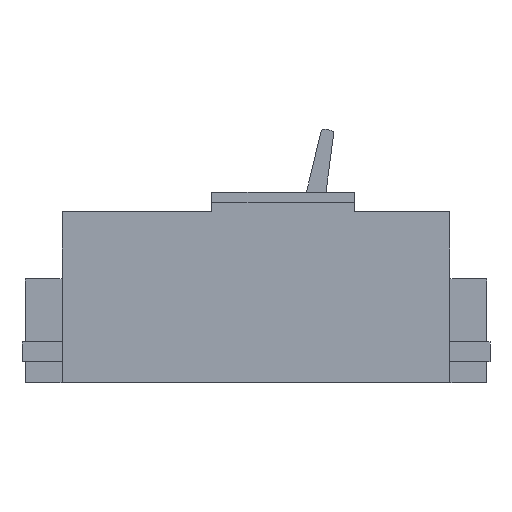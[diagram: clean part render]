
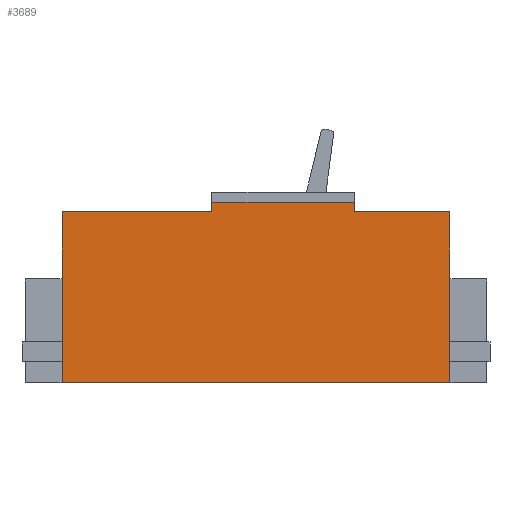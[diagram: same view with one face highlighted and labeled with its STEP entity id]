
A CAD part, left-side view. The second image highlights one B-rep face of the part: STEP entity #3689.
In plain terms, the highlighted planar face has unit normal (-1, 0, 0).
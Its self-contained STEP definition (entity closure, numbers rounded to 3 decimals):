
#55 = EDGE_CURVE ( 'NONE', #1379, #2884, #3174, .T. ) ;
#79 = AXIS2_PLACEMENT_3D ( 'NONE', #3136, #175, #1993 ) ;
#116 = DIRECTION ( 'NONE',  ( 0., 0., -1. ) ) ;
#163 = ORIENTED_EDGE ( 'NONE', *, *, #2236, .T. ) ;
#175 = DIRECTION ( 'NONE',  ( 1., 0., 0. ) ) ;
#181 = VECTOR ( 'NONE', #3947, 1000. ) ;
#277 = VERTEX_POINT ( 'NONE', #3913 ) ;
#313 = VECTOR ( 'NONE', #4468, 1000. ) ;
#332 = ORIENTED_EDGE ( 'NONE', *, *, #2260, .F. ) ;
#427 = LINE ( 'NONE', #3037, #313 ) ;
#447 = CARTESIAN_POINT ( 'NONE',  ( -105., 157.4, 154.6 ) ) ;
#590 = PLANE ( 'NONE',  #79 ) ;
#709 = VERTEX_POINT ( 'NONE', #4234 ) ;
#971 = DIRECTION ( 'NONE',  ( 0., -1., 0. ) ) ;
#1175 = EDGE_CURVE ( 'NONE', #277, #3954, #4551, .T. ) ;
#1237 = CARTESIAN_POINT ( 'NONE',  ( -105., -157.4, 154.6 ) ) ;
#1280 = CARTESIAN_POINT ( 'NONE',  ( -105., -80.1, 138.6 ) ) ;
#1342 = EDGE_CURVE ( 'NONE', #709, #2465, #427, .T. ) ;
#1379 = VERTEX_POINT ( 'NONE', #2691 ) ;
#1446 = CARTESIAN_POINT ( 'NONE',  ( -105., -157.4, 0. ) ) ;
#1535 = VECTOR ( 'NONE', #116, 1000. ) ;
#1588 = ORIENTED_EDGE ( 'NONE', *, *, #1175, .T. ) ;
#1639 = LINE ( 'NONE', #1237, #3660 ) ;
#1648 = LINE ( 'NONE', #447, #1535 ) ;
#1679 = ORIENTED_EDGE ( 'NONE', *, *, #4338, .F. ) ;
#1873 = FACE_OUTER_BOUND ( 'NONE', #4542, .T. ) ;
#1929 = VECTOR ( 'NONE', #2001, 1000. ) ;
#1931 = VERTEX_POINT ( 'NONE', #3065 ) ;
#1993 = DIRECTION ( 'NONE',  ( 0., 1., 0. ) ) ;
#2001 = DIRECTION ( 'NONE',  ( 0., -1., 0. ) ) ;
#2236 = EDGE_CURVE ( 'NONE', #3265, #277, #1648, .T. ) ;
#2238 = DIRECTION ( 'NONE',  ( 0., -1., 0. ) ) ;
#2260 = EDGE_CURVE ( 'NONE', #3265, #1379, #3885, .T. ) ;
#2276 = LINE ( 'NONE', #2380, #1929 ) ;
#2309 = CARTESIAN_POINT ( 'NONE',  ( -105., 35.9, 146.3 ) ) ;
#2363 = ORIENTED_EDGE ( 'NONE', *, *, #1342, .F. ) ;
#2380 = CARTESIAN_POINT ( 'NONE',  ( -105., 35.9, 146.3 ) ) ;
#2401 = DIRECTION ( 'NONE',  ( 0., 0., -1. ) ) ;
#2465 = VERTEX_POINT ( 'NONE', #4550 ) ;
#2691 = CARTESIAN_POINT ( 'NONE',  ( -105., 35.9, 138.6 ) ) ;
#2827 = ORIENTED_EDGE ( 'NONE', *, *, #4229, .F. ) ;
#2884 = VERTEX_POINT ( 'NONE', #2309 ) ;
#2901 = VECTOR ( 'NONE', #971, 1000. ) ;
#2954 = LINE ( 'NONE', #1280, #2901 ) ;
#2991 = EDGE_CURVE ( 'NONE', #1931, #3954, #1639, .T. ) ;
#3037 = CARTESIAN_POINT ( 'NONE',  ( -105., -80.1, 154.6 ) ) ;
#3065 = CARTESIAN_POINT ( 'NONE',  ( -105., -157.4, 138.6 ) ) ;
#3136 = CARTESIAN_POINT ( 'NONE',  ( -105., 157.4, 154.6 ) ) ;
#3174 = LINE ( 'NONE', #3833, #3739 ) ;
#3265 = VERTEX_POINT ( 'NONE', #4677 ) ;
#3356 = CARTESIAN_POINT ( 'NONE',  ( -105., 157.4, 138.6 ) ) ;
#3401 = ORIENTED_EDGE ( 'NONE', *, *, #2991, .F. ) ;
#3473 = DIRECTION ( 'NONE',  ( 0., 0., 1. ) ) ;
#3660 = VECTOR ( 'NONE', #2401, 1000. ) ;
#3689 = ADVANCED_FACE ( 'NONE', ( #1873 ), #590, .F. ) ;
#3739 = VECTOR ( 'NONE', #3473, 1000. ) ;
#3833 = CARTESIAN_POINT ( 'NONE',  ( -105., 35.9, 138.6 ) ) ;
#3885 = LINE ( 'NONE', #3356, #4277 ) ;
#3913 = CARTESIAN_POINT ( 'NONE',  ( -105., 157.4, 0. ) ) ;
#3947 = DIRECTION ( 'NONE',  ( 0., -1., 0. ) ) ;
#3954 = VERTEX_POINT ( 'NONE', #1446 ) ;
#3991 = ORIENTED_EDGE ( 'NONE', *, *, #55, .F. ) ;
#4229 = EDGE_CURVE ( 'NONE', #2884, #709, #2276, .T. ) ;
#4234 = CARTESIAN_POINT ( 'NONE',  ( -105., -80.1, 146.3 ) ) ;
#4255 = CARTESIAN_POINT ( 'NONE',  ( -105., 157.4, 0. ) ) ;
#4277 = VECTOR ( 'NONE', #2238, 1000. ) ;
#4338 = EDGE_CURVE ( 'NONE', #2465, #1931, #2954, .T. ) ;
#4468 = DIRECTION ( 'NONE',  ( 0., 0., -1. ) ) ;
#4542 = EDGE_LOOP ( 'NONE', ( #2827, #3991, #332, #163, #1588, #3401, #1679, #2363 ) ) ;
#4550 = CARTESIAN_POINT ( 'NONE',  ( -105., -80.1, 138.6 ) ) ;
#4551 = LINE ( 'NONE', #4255, #181 ) ;
#4677 = CARTESIAN_POINT ( 'NONE',  ( -105., 157.4, 138.6 ) ) ;
